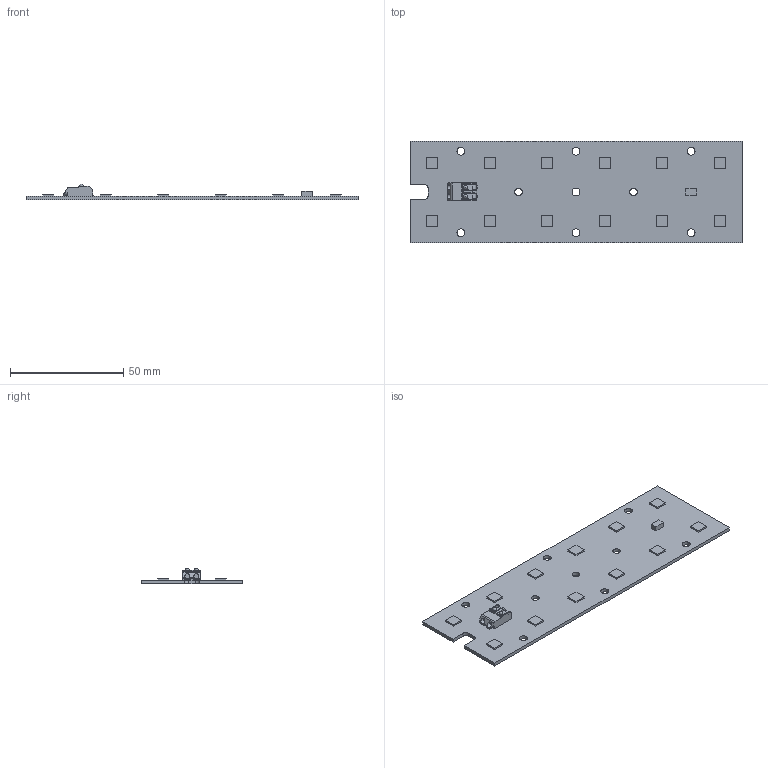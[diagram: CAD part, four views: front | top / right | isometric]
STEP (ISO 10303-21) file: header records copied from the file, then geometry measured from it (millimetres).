
FILE_DESCRIPTION(('Open CASCADE Model'),'2;1');
FILE_NAME('Open CASCADE Shape Model','2025-05-01T11:13:23',('Author'),( 'Open CASCADE'),'Open CASCADE STEP processor 6.8','Open CASCADE 6.8' ,'Unknown');
FILE_SCHEMA(('AUTOMOTIVE_DESIGN { 1 0 10303 214 1 1 1 1 }'));
Length unit declared in the file: millimetre
Products named in the file (1): PCB
Bounding box: 146.6 x 45 x 6.95 mm (x, y, z)
Volume: 10865 mm3; surface area: 15131.3 mm2
Topology: 15 solids, 17 shells, 284 faces, 746 edges, 496 vertices
Faces by surface type: plane 217, cylinder 63, sphere 4
Full cylindrical faces by diameter (mm): 2.25 x2, 3.4 x2, 3.5 x7
Entity records: 8809 total; most frequent: CARTESIAN_POINT 1594, ORIENTED_EDGE 1472, DIRECTION 1434, EDGE_CURVE 736, LINE 578, VECTOR 578, VERTEX_POINT 492, AXIS2_PLACEMENT_3D 428
